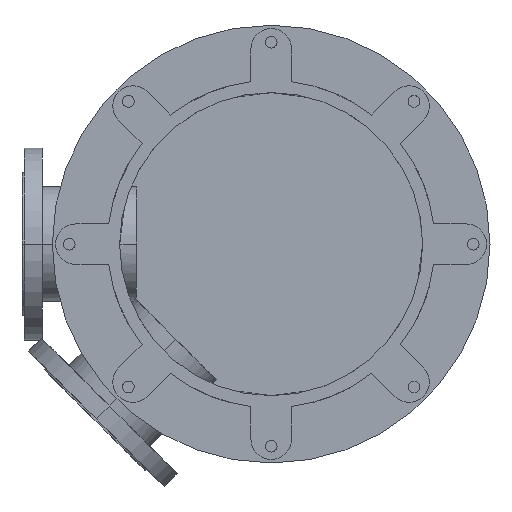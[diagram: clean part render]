
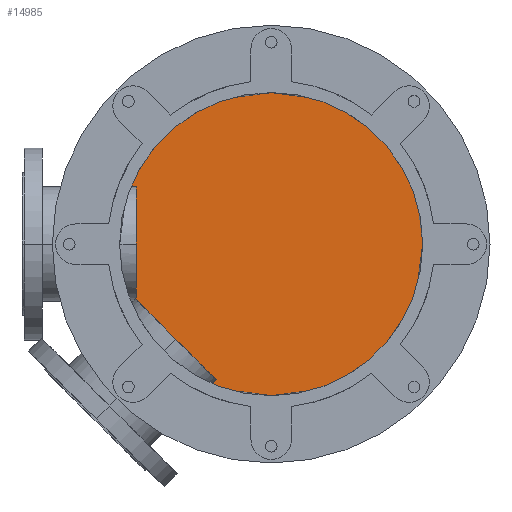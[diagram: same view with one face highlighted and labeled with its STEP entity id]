
A CAD part, front view. The second image highlights one B-rep face of the part: STEP entity #14985.
In plain terms, the highlighted planar face has unit normal (0, -1, 0).
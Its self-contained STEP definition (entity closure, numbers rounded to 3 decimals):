
#3910=CARTESIAN_POINT('',(0.,836.,0.));
#3911=DIRECTION('',(0.,-1.,0.));
#3912=DIRECTION('',(0.,0.,1.));
#3913=AXIS2_PLACEMENT_3D('',#3910,#3911,#3912);
#4084=CARTESIAN_POINT('',(0.,836.,0.));
#4085=DIRECTION('',(0.,-1.,0.));
#4086=DIRECTION('',(0.,0.,-1.));
#4087=AXIS2_PLACEMENT_3D('',#4084,#4085,#4086);
#9205=CARTESIAN_POINT('',(0.,836.,240.));
#9206=CARTESIAN_POINT('',(0.,836.,-240.));
#9207=VERTEX_POINT('',#9205);
#9208=VERTEX_POINT('',#9206);
#14975=CARTESIAN_POINT('',(0.,836.,0.));
#14976=DIRECTION('',(0.,1.,0.));
#14977=DIRECTION('',(0.,0.,-1.));
#14978=AXIS2_PLACEMENT_3D('',#14975,#14976,#14977);
#14979=PLANE('',#14978);
#14980=ORIENTED_EDGE('',*,*,#14953,.F.);
#14982=ORIENTED_EDGE('',*,*,#14981,.F.);
#14983=EDGE_LOOP('',(#14980,#14982));
#14984=FACE_OUTER_BOUND('',#14983,.F.);
#14985=ADVANCED_FACE('',(#14984),#14979,.F.);
#3914=CIRCLE('',#3913,240.);
#4088=CIRCLE('',#4087,240.);
#14953=EDGE_CURVE('',#9207,#9208,#3914,.T.);
#14981=EDGE_CURVE('',#9208,#9207,#4088,.T.);
